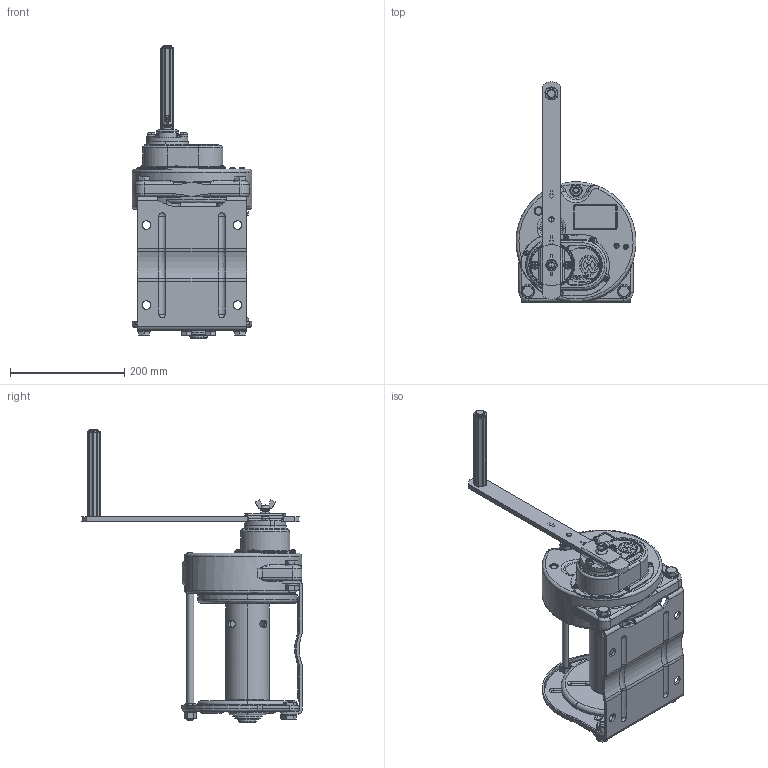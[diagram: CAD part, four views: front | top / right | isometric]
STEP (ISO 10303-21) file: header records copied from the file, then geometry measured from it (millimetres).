
FILE_DESCRIPTION( (''), '2;1');
FILE_NAME ('GM-10-SIC.stp','2023-12-21T17:11:46',(''),(''),'spGate 19.8.2 (****-****-****-****)','','');
FILE_SCHEMA (('AUTOMOTIVE_DESIGN'));
Length unit declared in the file: millimetre
Products named in the file (3): Assembly; GM-10-SIC-prt0; GM-10-SIC-prt1
Assembly tree (2 placements, depth 2):
  Assembly
    GM-10-SIC-prt0
    GM-10-SIC-prt1
Bounding box: 209.98 x 385.43 x 513.1 mm (x, y, z)
Volume: 161187.8 mm3; surface area: 701571.2 mm2
Topology: 1 solids, 2 shells, 2671 faces, 6887 edges, 4308 vertices
Faces by surface type: plane 1282, cylinder 860, bspline 467, sphere 62
Entity records: 146769 total; most frequent: CARTESIAN_POINT 28704, ORIENTED_EDGE 13679, DIRECTION 13061, COLOUR_RGB 9513, PRESENTATION_STYLE_ASSIGNMENT 9513, STYLED_ITEM 9513, EDGE_CURVE 6840, DRAUGHTING_PRE_DEFINED_CURVE_FONT 6840
